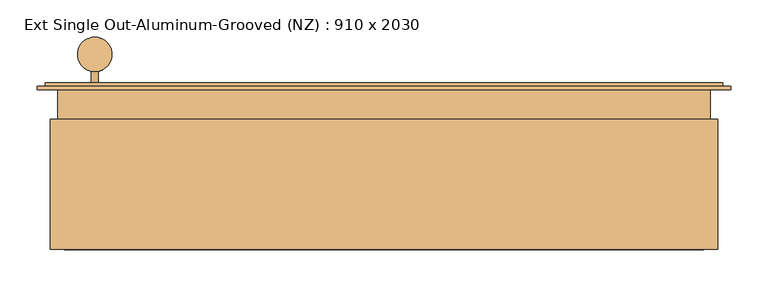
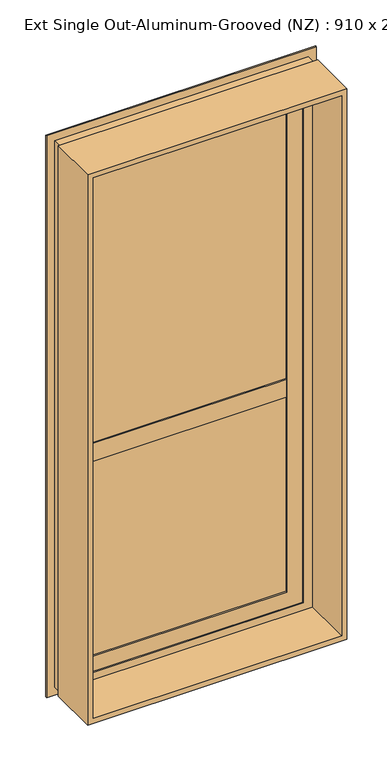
"""IFC4 building model written with IfcOpenShell, lengths in millimetres: door geometry, Ext Single Out-Aluminum-Grooved (NZ) : 910 x 2030."""

from ifc_helpers import new_model, si_unit, point, frame, origin, place, context, project, spatial, polyline, circle_curve, ellipse_curve, trimmed, outline, extrude, faceted_brep, source, transform, mapped, element, save
from ifc_brep_helpers import plane_surface, cylinder_surface, revolved_surface, advanced_brep


def ext_single_out_aluminum_grooved_nz_910_x_2030_b83aaf34(model_context):
    return source(origin(), model_context, "Body", "SolidModel", [
        advanced_brep(
        [(-430.0, 104.7734893, 1000.0), (-450.0, 104.7734893, 1000.0), (-410.0, 104.7734893, 1000.0), (-425.0, 125.3183768, 1000.0), (-435.0, 125.3183768, 1000.0), (-430.0, 171.1994132, 1000.0), (-425.0, 109.7734893, 1000.0), (-435.0, 109.7734893, 1000.0), (-410.0, 109.7734893, 1000.0), (-450.0, 109.7734893, 1000.0)],
        [
            (0, 1),
            (1, 2, circle_curve(frame((-430.0, 104.7734893, 1000.0), z_axis=(0.0, -1.0, 0.0), x_axis=(-1.0, 0.0, 0.0)), 20.0)),
            (2, 0),
            (2, 1, circle_curve(frame((-430.0, 104.7734893, 1000.0), z_axis=(0.0, -1.0, 0.0), x_axis=(-1.0, 0.0, 0.0)), 20.0)),
            (3, 4, circle_curve(frame((-430.0, 125.3183768, 1000.0), z_axis=(0.0, 1.0, 0.0), x_axis=(-1.0, 0.0, 0.0)), 5.0)),
            (4, 5, circle_curve(frame((-430.0, 147.9864513, 1000.0), z_axis=(0.0, 0.0, -1.0), x_axis=(0.0, -1.0, 0.0)), 23.2129619)),
            (5, 3, circle_curve(frame((-430.0, 147.9864513, 1000.0), z_axis=(0.0, 0.0, -1.0), x_axis=(0.0, -1.0, 0.0)), 23.2129619)),
            (4, 3, circle_curve(frame((-430.0, 125.3183768, 1000.0), z_axis=(0.0, 1.0, 0.0), x_axis=(-1.0, 0.0, 0.0)), 5.0)),
            (6, 7, circle_curve(frame((-430.0, 109.7734893, 1000.0), z_axis=(0.0, 1.0, 0.0), x_axis=(-1.0, 0.0, 0.0)), 5.0)),
            (7, 4),
            (3, 6),
            (7, 6, circle_curve(frame((-430.0, 109.7734893, 1000.0), z_axis=(0.0, 1.0, 0.0), x_axis=(-1.0, 0.0, 0.0)), 5.0)),
            (8, 9, circle_curve(frame((-430.0, 109.7734893, 1000.0), z_axis=(0.0, 1.0, 0.0), x_axis=(-1.0, 0.0, 0.0)), 20.0)),
            (9, 7),
            (6, 8),
            (9, 8, circle_curve(frame((-430.0, 109.7734893, 1000.0), z_axis=(0.0, 1.0, 0.0), x_axis=(-1.0, 0.0, 0.0)), 20.0)),
            (1, 9),
            (8, 2),
        ],
        [
            plane_surface(frame((-430.0, 104.7734893, 1000.0), z_axis=(0.0, -1.0, 0.0), x_axis=(-1.0, 0.0, 0.0))),
            revolved_surface(trimmed(ellipse_curve(frame((-430.0, 147.9864513, 1000.0), z_axis=(0.0, 0.0, 1.0), x_axis=(0.0, -1.0, 0.0)), 23.2129619, 23.2129619), [point((-430.0, 171.1994132, 1000.0))], [point((-435.0, 125.3183768, 1000.0))], True, "CARTESIAN"), (-430.0, 171.1994132, 1000.0), (0.0, -1.0, 0.0)),
            cylinder_surface(frame((-430.0, 171.1994132, 1000.0), z_axis=(0.0, -1.0, 0.0), x_axis=(-1.0, 0.0, 0.0)), 5.0),
            plane_surface(frame((-430.0, 109.7734893, 1000.0), z_axis=(0.0, 1.0, 0.0), x_axis=(-1.0, 0.0, 0.0))),
            cylinder_surface(frame((-430.0, 171.1994132, 1000.0), z_axis=(0.0, -1.0, 0.0), x_axis=(-1.0, 0.0, 0.0)), 20.0),
        ],
        [
            (0, [[1, 2, 3]]),
            (0, [[-3, 4, -1]]),
            (1, [[5, 6, 7]]),
            (1, [[8, -7, -6]]),
            (2, [[9, 10, -5, 11]]),
            (2, [[12, -11, -8, -10]]),
            (3, [[13, 14, -9, 15]]),
            (3, [[16, -15, -12, -14]]),
            (4, [[-2, 17, -13, 18]]),
            (4, [[-4, -18, -16, -17]]),
        ],
    ),
        advanced_brep(
        [(-410.0, 51.7734893, 1000.0), (-450.0, 51.7734893, 1000.0), (-450.0, 56.7734893, 1000.0), (-410.0, 56.7734893, 1000.0), (-425.0, 51.7734893, 1000.0), (-435.0, 51.7734893, 1000.0), (-425.0, 36.2286019, 1000.0), (-435.0, 36.2286019, 1000.0), (-430.0, -9.6524345, 1000.0), (-430.0, 56.7734893, 1000.0)],
        [
            (0, 1, circle_curve(frame((-430.0, 51.7734893, 1000.0), z_axis=(0.0, 1.0, 0.0), x_axis=(-1.0, 0.0, 0.0)), 20.0)),
            (1, 2),
            (2, 3, circle_curve(frame((-430.0, 56.7734893, 1000.0), z_axis=(0.0, -1.0, 0.0), x_axis=(-1.0, 0.0, 0.0)), 20.0)),
            (3, 0),
            (1, 0, circle_curve(frame((-430.0, 51.7734893, 1000.0), z_axis=(0.0, 1.0, 0.0), x_axis=(-1.0, 0.0, 0.0)), 20.0)),
            (3, 2, circle_curve(frame((-430.0, 56.7734893, 1000.0), z_axis=(0.0, -1.0, 0.0), x_axis=(-1.0, 0.0, 0.0)), 20.0)),
            (4, 5, circle_curve(frame((-430.0, 51.7734893, 1000.0), z_axis=(0.0, 1.0, 0.0), x_axis=(-1.0, 0.0, 0.0)), 5.0)),
            (5, 1),
            (0, 4),
            (5, 4, circle_curve(frame((-430.0, 51.7734893, 1000.0), z_axis=(0.0, 1.0, 0.0), x_axis=(-1.0, 0.0, 0.0)), 5.0)),
            (6, 7, circle_curve(frame((-430.0, 36.2286019, 1000.0), z_axis=(0.0, 1.0, 0.0), x_axis=(-1.0, 0.0, 0.0)), 5.0)),
            (7, 5),
            (4, 6),
            (7, 6, circle_curve(frame((-430.0, 36.2286019, 1000.0), z_axis=(0.0, 1.0, 0.0), x_axis=(-1.0, 0.0, 0.0)), 5.0)),
            (8, 7, circle_curve(frame((-430.0, 13.5605274, 1000.0), z_axis=(0.0, 0.0, -1.0), x_axis=(0.0, -1.0, 0.0)), 23.2129619)),
            (6, 8, circle_curve(frame((-430.0, 13.5605274, 1000.0), z_axis=(0.0, 0.0, -1.0), x_axis=(0.0, -1.0, 0.0)), 23.2129619)),
            (2, 9),
            (9, 3),
        ],
        [
            cylinder_surface(frame((-430.0, 171.1994132, 1000.0), z_axis=(0.0, -1.0, 0.0), x_axis=(-1.0, 0.0, 0.0)), 20.0),
            plane_surface(frame((-430.0, 51.7734893, 1000.0), z_axis=(0.0, -1.0, 0.0), x_axis=(-1.0, 0.0, 0.0))),
            cylinder_surface(frame((-430.0, 171.1994132, 1000.0), z_axis=(0.0, -1.0, 0.0), x_axis=(-1.0, 0.0, 0.0)), 5.0),
            revolved_surface(trimmed(ellipse_curve(frame((-430.0, 13.5605274, 1000.0), z_axis=(0.0, 0.0, 1.0), x_axis=(0.0, -1.0, 0.0)), 23.2129619, 23.2129619), [point((-435.0, 36.2286019, 1000.0))], [point((-430.0, -9.6524345, 1000.0))], True, "CARTESIAN"), (-430.0, 171.1994132, 1000.0), (0.0, -1.0, 0.0)),
            plane_surface(frame((-430.0, 56.7734893, 1000.0), z_axis=(0.0, 1.0, 0.0), x_axis=(-1.0, 0.0, 0.0))),
        ],
        [
            (0, [[1, 2, 3, 4]]),
            (0, [[5, -4, 6, -2]]),
            (1, [[7, 8, -1, 9]]),
            (1, [[10, -9, -5, -8]]),
            (2, [[11, 12, -7, 13]]),
            (2, [[14, -13, -10, -12]]),
            (3, [[15, -11, 16]]),
            (3, [[-16, -14, -15]]),
            (4, [[-3, 17, 18]]),
            (4, [[-6, -18, -17]]),
        ],
    ),
        faceted_brep([(-480.0, 100.0, 30.0), (-480.0, 60.0, 30.0), (-480.0, 60.0, 2035.0), (-480.0, 100.0, 2035.0), (-507.6806291, 104.7734893, 2.3193709), (-507.6806291, 100.0, 2.3193709), (-507.6806291, 100.0, 2062.6806291), (-507.6806291, 104.7734893, 2062.6806291), (-474.9666646, 100.0, 35.0333354), (-474.9666646, 104.7734893, 35.0333354), (-474.9666646, 104.7734893, 2029.9666646), (-474.9666646, 100.0, 2029.9666646), (-469.6382174, 64.8384626, 40.3617826), (-469.6382174, 100.0, 40.3617826), (-469.6382174, 100.0, 2024.6382174), (-469.6382174, 64.8384626, 2024.6382174), (-440.0, 60.0, 70.0), (-440.0, 64.8384626, 70.0), (-440.0, 64.8384626, 1995.0), (-440.0, 60.0, 1995.0), (400.0, 60.0, 2035.0), (400.0, 100.0, 2035.0), (427.6806291, 100.0, 2062.6806291), (427.6806291, 104.7734893, 2062.6806291), (394.9666646, 104.7734893, 2029.9666646), (394.9666646, 100.0, 2029.9666646), (389.6382174, 100.0, 2024.6382174), (389.6382174, 64.8384626, 2024.6382174), (360.0, 64.8384626, 1995.0), (360.0, 60.0, 1995.0), (400.0, 60.0, 30.0), (400.0, 100.0, 30.0), (427.6806291, 100.0, 2.3193709), (427.6806291, 104.7734893, 2.3193709), (394.9666646, 104.7734893, 35.0333354), (394.9666646, 100.0, 35.0333354), (389.6382174, 100.0, 40.3617826), (389.6382174, 64.8384626, 40.3617826), (360.0, 64.8384626, 70.0), (360.0, 60.0, 70.0)], [[[0, 1, 2, 3]], [[4, 5, 6, 7]], [[8, 9, 10, 11]], [[12, 13, 14, 15]], [[16, 17, 18, 19]], [[3, 2, 20, 21]], [[7, 6, 22, 23]], [[11, 10, 24, 25]], [[15, 14, 26, 27]], [[19, 18, 28, 29]], [[21, 20, 30, 31]], [[23, 22, 32, 33]], [[25, 24, 34, 35]], [[27, 26, 36, 37]], [[29, 28, 38, 39]], [[31, 30, 1, 0]], [[5, 32, 22, 6], [3, 21, 31, 0]], [[33, 32, 5, 4]], [[7, 23, 33, 4], [9, 34, 24, 10]], [[35, 34, 9, 8]], [[11, 25, 35, 8], [13, 36, 26, 14]], [[37, 36, 13, 12]], [[15, 27, 37, 12], [17, 38, 28, 18]], [[39, 38, 17, 16]], [[1, 30, 20, 2], [19, 29, 39, 16]]]),
        extrude(outline(polyline([(25.0, -490.0), (25.0, 410.0), (2045.0, 410.0), (2045.0, -490.0), (25.0, -490.0)]), holes=[polyline([(2025.9969847, -470.9969847), (2025.9969847, 390.9969847), (44.0030153, 390.9969847), (44.0030153, -470.9969847), (2025.9969847, -470.9969847)])]), frame((0.0, -115.0, 0.0), z_axis=(0.0, 1.0, 0.0), x_axis=(0.0, 0.0, 1.0)), (0.0, 0.0, 1.0), 175.6742273),
        extrude(outline(polyline([(307.3189571, 75.0), (-387.3189571, 75.0), (-387.3189571, 80.0), (307.3189571, 80.0), (307.3189571, 75.0)])), frame((0.0, 0.0, 122.6810429), z_axis=(0.0, 0.0, 1.0), x_axis=(1.0, 0.0, 0.0)), (0.0, 0.0, 1.0), 1819.6379143),
        faceted_brep([(-467.3189571, 104.7734893, 42.6810429), (-467.3189571, 69.2968021, 42.6810429), (-467.3189571, 69.2968021, 2022.3189571), (-467.3189571, 104.7734893, 2022.3189571), (-496.5692748, 109.9610686, 13.4307252), (-496.5692748, 104.7734893, 13.4307252), (-496.5692748, 104.7734893, 2051.5692748), (-496.5692748, 109.9610686, 2051.5692748), (-461.5692748, 104.7734893, 48.4307252), (-461.5692748, 109.9610686, 48.4307252), (-461.5692748, 109.9610686, 2016.5692748), (-461.5692748, 104.7734893, 2016.5692748), (-387.3189571, 87.9474839, 122.6810429), (-405.3752431, 104.7734893, 104.6247569), (-405.3752431, 104.7734893, 1960.3752431), (-387.3189571, 87.9474839, 1942.3189571), (-387.3189571, 69.2968021, 122.6810429), (-387.3189571, 69.2968021, 1942.3189571), (387.3189571, 69.2968021, 2022.3189571), (387.3189571, 104.7734893, 2022.3189571), (416.5692748, 104.7734893, 2051.5692748), (416.5692748, 109.9610686, 2051.5692748), (381.5692748, 109.9610686, 2016.5692748), (381.5692748, 104.7734893, 2016.5692748), (325.3752431, 104.7734893, 1960.3752431), (307.3189571, 87.9474839, 1942.3189571), (307.3189571, 69.2968021, 1942.3189571), (387.3189571, 69.2968021, 42.6810429), (387.3189571, 104.7734893, 42.6810429), (416.5692748, 104.7734893, 13.4307252), (416.5692748, 109.9610686, 13.4307252), (381.5692748, 109.9610686, 48.4307252), (381.5692748, 104.7734893, 48.4307252), (325.3752431, 104.7734893, 104.6247569), (307.3189571, 87.9474839, 122.6810429), (307.3189571, 69.2968021, 122.6810429)], [[[0, 1, 2, 3]], [[4, 5, 6, 7]], [[8, 9, 10, 11]], [[12, 13, 14, 15]], [[16, 12, 15, 17]], [[3, 2, 18, 19]], [[7, 6, 20, 21]], [[11, 10, 22, 23]], [[15, 14, 24, 25]], [[17, 15, 25, 26]], [[19, 18, 27, 28]], [[21, 20, 29, 30]], [[23, 22, 31, 32]], [[25, 24, 33, 34]], [[26, 25, 34, 35]], [[1, 27, 18, 2], [17, 26, 35, 16]], [[28, 27, 1, 0]], [[5, 29, 20, 6], [3, 19, 28, 0]], [[30, 29, 5, 4]], [[7, 21, 30, 4], [9, 31, 22, 10]], [[32, 31, 9, 8]], [[11, 23, 32, 8], [13, 33, 24, 14]], [[34, 33, 13, 12]], [[35, 34, 12, 16]]]),
        extrude(outline(polyline([(69.2968021, 902.9474839), (87.5300276, 902.9474839), (104.7734893, 885.7040221), (104.7734893, 854.7734893), (87.9474839, 837.9474839), (69.2968021, 837.9474839), (69.2968021, 902.9474839)])), frame((-405.3752431, 0.0, 0.0), z_axis=(1.0, 0.0, 0.0), x_axis=(0.0, 1.0, 0.0)), (0.0, 0.0, 1.0), 730.7504863),
    ])


if __name__ == "__main__":
    model = new_model("IFC4")
    model_context = context("Model", 3, world=origin())
    ifc_project = project(units=[si_unit("LENGTHUNIT", "METRE", prefix="MILLI")], contexts=[model_context])
    site = spatial("IfcSite", under=ifc_project)
    building = spatial("IfcBuilding", under=site)
    placement = place(None, origin())
    ext_single_out_aluminum_grooved_nz_910_x_2030_shape = ext_single_out_aluminum_grooved_nz_910_x_2030_b83aaf34(model_context)
    element("IfcDoor", 1, ObjectType="Ext Single Out-Aluminum-Grooved (NZ) : 910 x 2030", at=placement, inside=building, context=model_context, shape_type="MappedRepresentation", body=[
        mapped(ext_single_out_aluminum_grooved_nz_910_x_2030_shape, transform((0.0, 0.0, 0.0), x_axis=(1.0, 0.0, 0.0), y_axis=(0.0, 1.0, 0.0), z_axis=(0.0, 0.0, 1.0))),
    ])
    save(model, "model.ifc")
